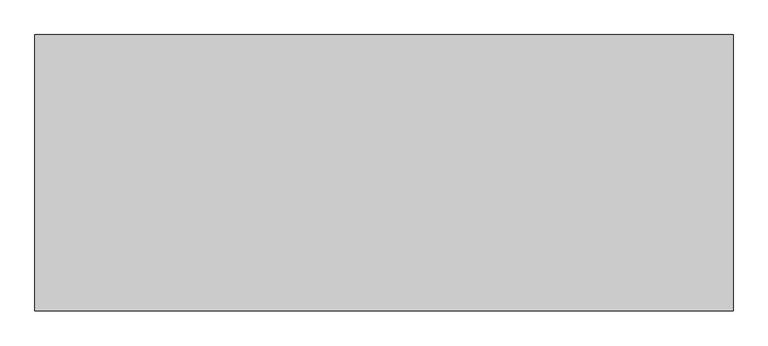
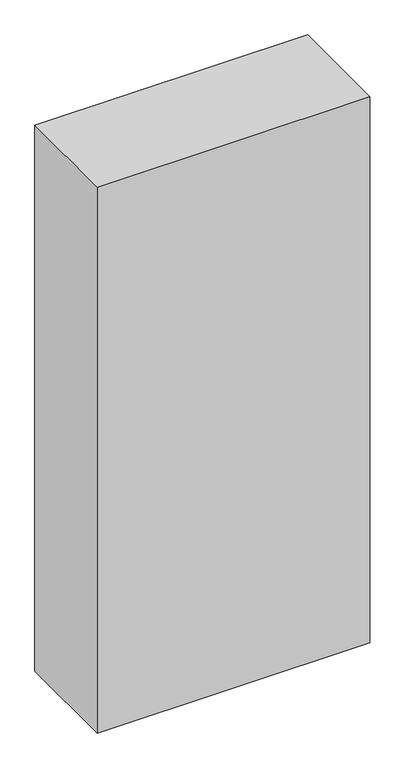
"""IFC4 building model written with IfcOpenShell, lengths in millimetres: proxy geometry."""

from ifc_helpers import new_model, si_unit, frame, origin, place, context, project, spatial, polyline, outline, extrude, source, transform, mapped, element, save


def generic_models_cfe14b80(model_context):
    return source(origin(), model_context, "Body", "SweptSolid", [
        extrude(outline(polyline([(15893.8277287, -502.0), (14343.8277287, -502.0), (14343.8277287, 111.0), (15893.8277287, 111.0), (15893.8277287, -502.0)])), frame((0.0, 0.0, 2596.741403), z_axis=(0.0, 0.0, 1.0), x_axis=(1.0, 0.0, 0.0)), (0.0, 0.0, 1.0), 3280.0),
    ])


if __name__ == "__main__":
    model = new_model("IFC4")
    model_context = context("Model", 3, world=origin())
    ifc_project = project(units=[si_unit("LENGTHUNIT", "METRE", prefix="MILLI")], contexts=[model_context])
    site = spatial("IfcSite", under=ifc_project)
    building = spatial("IfcBuilding", under=site)
    placement = place(None, origin())
    generic_models_shape = generic_models_cfe14b80(model_context)
    element("IfcBuildingElementProxy", 1, Name="Generic Models", at=placement, inside=building, context=model_context, shape_type="MappedRepresentation", body=[
        mapped(generic_models_shape, transform((0.0, 0.0, 0.0), x_axis=(1.0, 0.0, 0.0), y_axis=(0.0, 1.0, 0.0), z_axis=(0.0, 0.0, 1.0))),
    ])
    save(model, "model.ifc")
